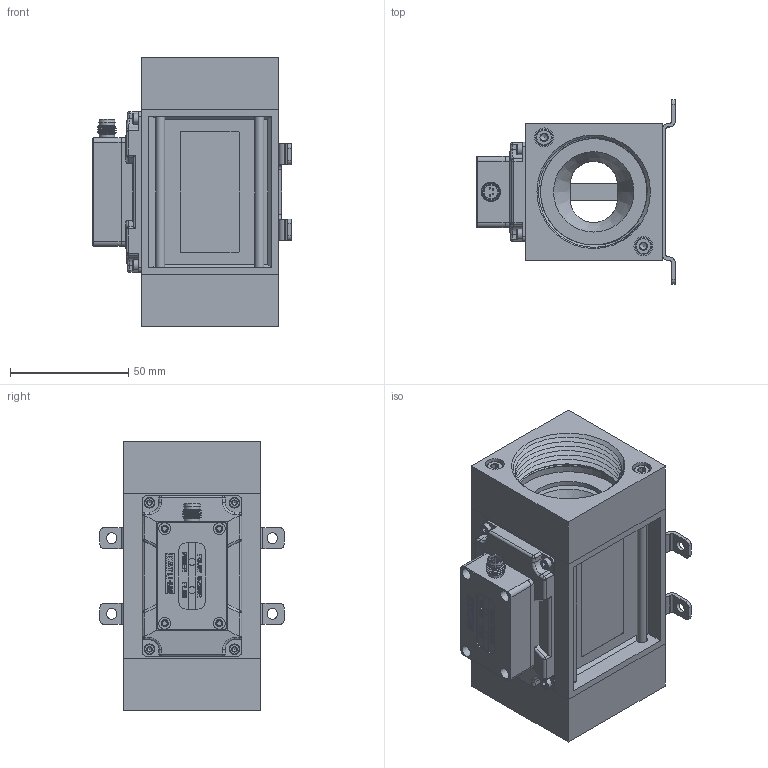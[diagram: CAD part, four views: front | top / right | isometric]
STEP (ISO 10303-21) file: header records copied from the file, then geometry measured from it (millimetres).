
FILE_DESCRIPTION( (''), '2;1');
FILE_NAME( 'QEKJ_250L_R1_M12_bracket_2.step', '2023-03-09T10:58:41+08:00', (''), (''), '', '', '');
FILE_SCHEMA (('CONFIG_CONTROL_DESIGN'));
Products named in the file (1): QEKJ 250L_R1_M12_bracket_2
Bounding box: 84 x 78 x 114 mm (x, y, z)
Volume: 178686.5 mm3; surface area: 116466 mm2
Topology: 17 solids, 17 shells, 1769 faces, 4466 edges, 2858 vertices
Faces by surface type: plane 1084, cylinder 391, cone 128, extrusion 88, torus 40, bspline 22, sphere 16
Full cylindrical faces by diameter (mm): 0.6 x4, 1.5 x2, 1.6 x6, 2 x2, 2.05 x8, 2.38 x4, 2.8 x4, 3 x10, 3.3 x4, 3.838 x8, 4 x5, 4.5 x28, 5 x8, 5.8 x1, 6 x2, 6.5 x10, 7 x17, 8 x4, 34 x2, 40 x2, 48 x2
Entity records: 57240 total; most frequent: CARTESIAN_POINT 16671, ORIENTED_EDGE 8276, DIRECTION 7861, EDGE_CURVE 4138, VERTEX_POINT 2787, AXIS2_PLACEMENT_3D 2676, VECTOR 2509, LINE 2421
